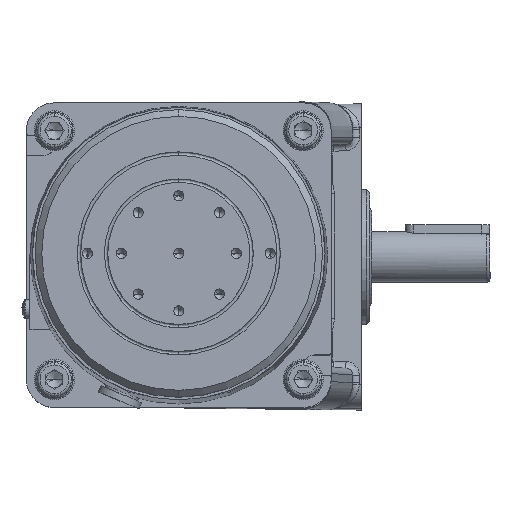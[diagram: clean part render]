
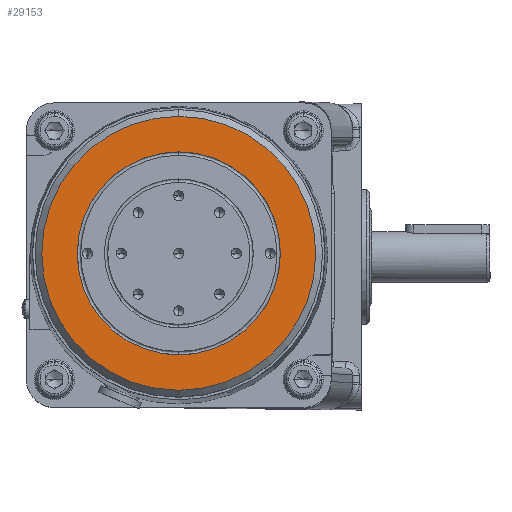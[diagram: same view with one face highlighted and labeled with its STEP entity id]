
A CAD part, front view. The second image highlights one B-rep face of the part: STEP entity #29153.
In plain terms, the highlighted planar face has unit normal (0, -1, 0.005) as drawn and (-1, 0, 0) by its records, which use the part's own axes.
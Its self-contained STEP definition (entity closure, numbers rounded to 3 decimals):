
#643 = VERTEX_POINT ( 'NONE', #71667 ) ;
#994 = DIRECTION ( 'NONE',  ( 0., 0., 1. ) ) ;
#1154 = AXIS2_PLACEMENT_3D ( 'NONE', #22727, #65020, #28762 ) ;
#3726 = CARTESIAN_POINT ( 'NONE',  ( -122.768, 9.172, 243.5 ) ) ;
#3986 = VERTEX_POINT ( 'NONE', #49394 ) ;
#4184 = VERTEX_POINT ( 'NONE', #39241 ) ;
#8845 = PLANE ( 'NONE',  #16971 ) ;
#9854 = DIRECTION ( 'NONE',  ( 0., 0., -1. ) ) ;
#10726 = CIRCLE ( 'NONE', #37814, 40.5 ) ;
#16971 = AXIS2_PLACEMENT_3D ( 'NONE', #20924, #75465, #39266 ) ;
#20924 = CARTESIAN_POINT ( 'NONE',  ( -122.768, 9.172, 213.5 ) ) ;
#22727 = CARTESIAN_POINT ( 'NONE',  ( -122.768, 9.172, 243.5 ) ) ;
#23615 = EDGE_LOOP ( 'NONE', ( #50799, #33397 ) ) ;
#26425 = AXIS2_PLACEMENT_3D ( 'NONE', #73482, #37276, #994 ) ;
#28762 = DIRECTION ( 'NONE',  ( 0., 0., 1. ) ) ;
#29153 = ADVANCED_FACE ( 'NONE', ( #76048, #33417 ), #8845, .T. ) ;
#33397 = ORIENTED_EDGE ( 'NONE', *, *, #62819, .F. ) ;
#33417 = FACE_OUTER_BOUND ( 'NONE', #23615, .T. ) ;
#34989 = ORIENTED_EDGE ( 'NONE', *, *, #76958, .T. ) ;
#36018 = DIRECTION ( 'NONE',  ( 1., 0., 0. ) ) ;
#37276 = DIRECTION ( 'NONE',  ( 1., 0., 0. ) ) ;
#37814 = AXIS2_PLACEMENT_3D ( 'NONE', #72248, #36018, #78305 ) ;
#39241 = CARTESIAN_POINT ( 'NONE',  ( -122.768, 9.172, 203. ) ) ;
#39266 = DIRECTION ( 'NONE',  ( 0., 0., 1. ) ) ;
#45192 = CIRCLE ( 'NONE', #26425, 30. ) ;
#46194 = DIRECTION ( 'NONE',  ( 1., 0., 0. ) ) ;
#49394 = CARTESIAN_POINT ( 'NONE',  ( -122.768, 9.172, 284. ) ) ;
#49796 = EDGE_CURVE ( 'NONE', #4184, #3986, #10726, .T. ) ;
#50799 = ORIENTED_EDGE ( 'NONE', *, *, #49796, .F. ) ;
#61107 = AXIS2_PLACEMENT_3D ( 'NONE', #3726, #46194, #9854 ) ;
#61637 = CIRCLE ( 'NONE', #1154, 30. ) ;
#62819 = EDGE_CURVE ( 'NONE', #3986, #4184, #78215, .T. ) ;
#63823 = VERTEX_POINT ( 'NONE', #65424 ) ;
#65020 = DIRECTION ( 'NONE',  ( 1., 0., 0. ) ) ;
#65424 = CARTESIAN_POINT ( 'NONE',  ( -122.768, 9.172, 213.5 ) ) ;
#67930 = ORIENTED_EDGE ( 'NONE', *, *, #68740, .T. ) ;
#68740 = EDGE_CURVE ( 'NONE', #643, #63823, #45192, .T. ) ;
#71667 = CARTESIAN_POINT ( 'NONE',  ( -122.768, 9.172, 273.5 ) ) ;
#72248 = CARTESIAN_POINT ( 'NONE',  ( -122.768, 9.172, 243.5 ) ) ;
#73482 = CARTESIAN_POINT ( 'NONE',  ( -122.768, 9.172, 243.5 ) ) ;
#75465 = DIRECTION ( 'NONE',  ( -1., 0., 0. ) ) ;
#75653 = EDGE_LOOP ( 'NONE', ( #67930, #34989 ) ) ;
#76048 = FACE_BOUND ( 'NONE', #75653, .T. ) ;
#76958 = EDGE_CURVE ( 'NONE', #63823, #643, #61637, .T. ) ;
#78215 = CIRCLE ( 'NONE', #61107, 40.5 ) ;
#78305 = DIRECTION ( 'NONE',  ( 0., 0., -1. ) ) ;
